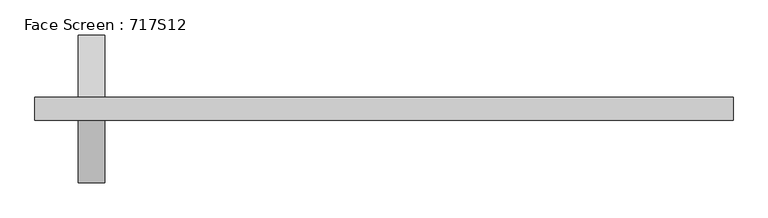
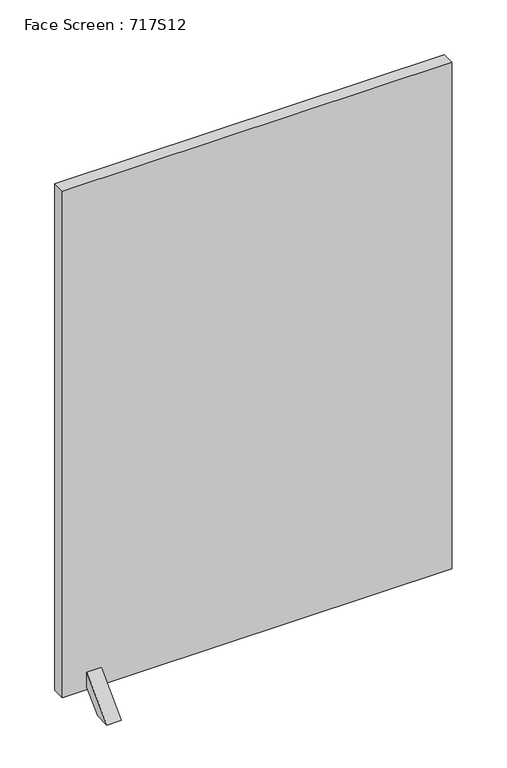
"""IFC4 building model written with IfcOpenShell, lengths in millimetres: furniture geometry, Face Screen : 717S12."""

from ifc_helpers import new_model, si_unit, frame, origin, place, context, project, spatial, polyline, outline, extrude, faceted_brep, source, transform, mapped, element, save


def face_screen_717s12_05edb2e0(model_context):
    return source(origin(), model_context, "Body", "SolidModel", [
        faceted_brep([(-491.6336106, 20.0, 50.0955899), (-491.6336106, -20.0, 50.0955899), (-491.6336106, -20.0, 57.4960966), (-491.6336106, -37.6776695, 39.8184271), (-491.6336106, 37.6776695, 39.8184271), (-491.6336106, 20.0, 57.4960966), (-480.1336106, -126.9935713, 0.0), (-480.1336106, -20.0, 106.9935713), (-525.1336106, -20.0, 106.9935713), (-525.1336106, -126.9935713, 0.0), (-480.1336106, -77.4960966, 0.0), (-525.1336106, -77.4960966, 0.0), (-480.1336106, -20.0, 57.4960966), (-525.1336106, -20.0, 57.4960966), (-513.6336106, -20.0, 57.4960966), (-513.6336106, -37.6776695, 39.8184271), (-513.6336106, 20.0, 50.0955899), (-513.6336106, 20.0, 57.4960966), (-513.6336106, 37.6776695, 39.8184271), (-513.6336106, -20.0, 50.0955899), (-480.1336106, 20.0, 57.4960966), (-480.1336106, 20.0, 106.9935713), (-525.1336106, 20.0, 106.9935713), (-525.1336106, 20.0, 57.4960966), (-480.1336106, 77.4960966, 0.0), (-480.1336106, 126.9935713, 0.0), (-525.1336106, 126.9935713, 0.0), (-525.1336106, 77.4960966, 0.0)], [[[0, 1, 2, 3, 4, 5]], [[6, 7, 8, 9]], [[10, 6, 9, 11]], [[12, 10, 11, 13, 14, 15, 3, 2]], [[16, 17, 18, 15, 14, 19]], [[1, 0, 16, 19]], [[2, 1, 19, 14, 13, 8, 7, 12]], [[4, 3, 15, 18]], [[0, 5, 20, 21, 22, 23, 17, 16]], [[21, 20, 24, 25]], [[7, 6, 10, 12]], [[8, 13, 11, 9]], [[22, 26, 27, 23]], [[24, 20, 5, 4, 18, 17, 23, 27]], [[25, 24, 27, 26]], [[21, 25, 26, 22]]]),
        extrude(outline(polyline([(600.0, -20.0), (-600.0, -20.0), (-600.0, 20.0), (600.0, 20.0), (600.0, -20.0)])), frame((0.0, 0.0, 50.0), z_axis=(0.0, 0.0, 1.0), x_axis=(1.0, 0.0, 0.0)), (0.0, 0.0, 1.0), 1650.0),
    ])


if __name__ == "__main__":
    model = new_model("IFC4")
    model_context = context("Model", 3, world=origin())
    ifc_project = project(units=[si_unit("LENGTHUNIT", "METRE", prefix="MILLI")], contexts=[model_context])
    site = spatial("IfcSite", under=ifc_project)
    building = spatial("IfcBuilding", under=site)
    placement = place(None, origin())
    face_screen_717s12_shape = face_screen_717s12_05edb2e0(model_context)
    element("IfcFurniture", 1, ObjectType="Face Screen : 717S12", at=placement, inside=building, context=model_context, shape_type="MappedRepresentation", body=[
        mapped(face_screen_717s12_shape, transform((0.0, 0.0, 0.0), x_axis=(1.0, 0.0, 0.0), y_axis=(0.0, 1.0, 0.0), z_axis=(0.0, 0.0, 1.0))),
    ])
    save(model, "model.ifc")
